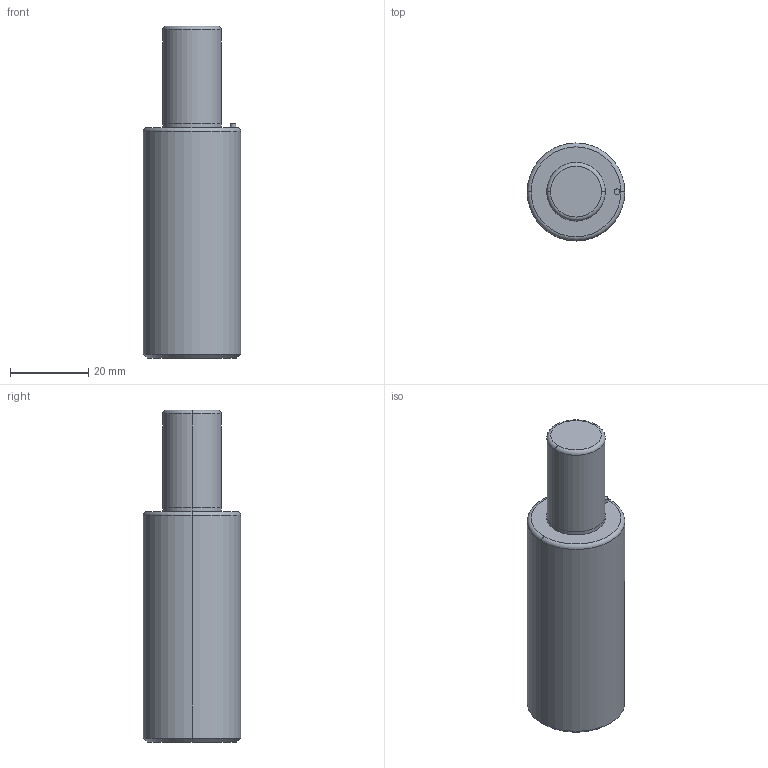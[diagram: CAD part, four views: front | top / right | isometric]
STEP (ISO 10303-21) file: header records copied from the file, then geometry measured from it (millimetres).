
FILE_DESCRIPTION(/* description */ (''),/* implementation_level */ '2;1');
FILE_NAME(/* name */ '3d_mgsc25-25_04573_r00.stp',/* time_stamp */ '2011-01-10T14:13:35+09:00',/* author */ ('MISUMI'),/* organization */ (''),/* preprocessor_version */ 'ST-DEVELOPER v11',/* originating_system */ 'UGS - NX 5.0',/* authorisation */ '');
FILE_SCHEMA (('CONFIG_CONTROL_DESIGN'));
Length unit declared in the file: millimetre
Products named in the file (1): 3d_mgsc25-25_04573_r00
Bounding box: 25 x 25 x 85 mm (x, y, z)
Volume: 33166 mm3; surface area: 6955.1 mm2
Topology: 1 solids, 1 shells, 24 faces, 48 edges, 27 vertices
Faces by surface type: cylinder 12, plane 4, torus 4, cone 4
Entity records: 698 total; most frequent: DIRECTION 126, CARTESIAN_POINT 98, ORIENTED_EDGE 92, AXIS2_PLACEMENT_3D 55, EDGE_CURVE 46, CIRCLE 30, EDGE_LOOP 27, VERTEX_POINT 27
